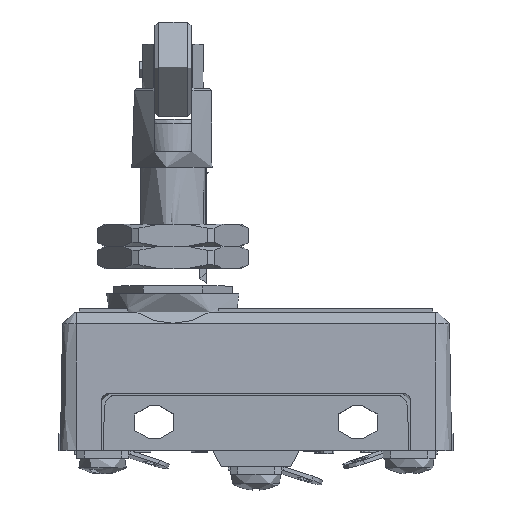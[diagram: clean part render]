
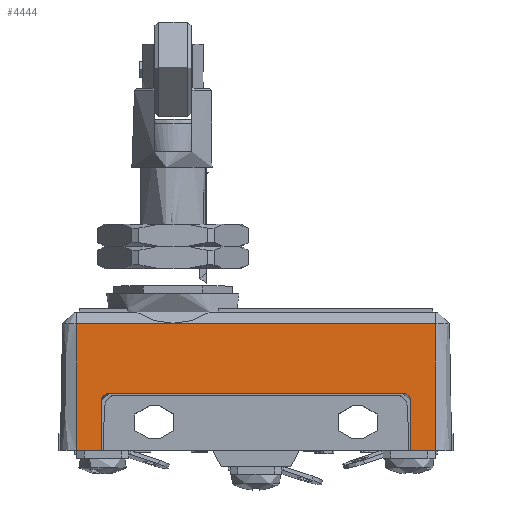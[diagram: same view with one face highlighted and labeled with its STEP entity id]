
A CAD part, top view. The second image highlights one B-rep face of the part: STEP entity #4444.
In plain terms, the highlighted planar face has unit normal (0, 0.018, 1).
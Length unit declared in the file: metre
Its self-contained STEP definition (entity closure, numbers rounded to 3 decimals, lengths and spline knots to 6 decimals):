
#2658=CARTESIAN_POINT('',(0.015183,-0.001307,0.057941));
#2659=VERTEX_POINT('',#2658);
#2662=CARTESIAN_POINT('',(0.014183,-0.001307,0.057941));
#2663=DIRECTION('',(0.,0.017,1.));
#2664=DIRECTION('',(1.,0.,0.));
#2665=AXIS2_PLACEMENT_3D('',#2662,#2663,#2664);
#2666=ELLIPSE('',#2665,0.001,0.001);
#2667=CARTESIAN_POINT('',(0.014183,-0.000307,0.057923));
#2668=VERTEX_POINT('',#2667);
#2669=EDGE_CURVE('',#2659,#2668,#2666,.T.);
#2709=CARTESIAN_POINT('',(0.014183,-0.000307,0.057923));
#2710=DIRECTION('',(-1.,0.,0.));
#2711=VECTOR('',#2710,1.);
#2712=LINE('',#2709,#2711);
#2713=CARTESIAN_POINT('',(-0.022917,-0.000307,0.057923));
#2714=VERTEX_POINT('',#2713);
#2715=EDGE_CURVE('',#2668,#2714,#2712,.T.);
#2751=CARTESIAN_POINT('',(-0.022917,-0.001307,0.057941));
#2752=DIRECTION('',(0.,0.017,1.));
#2753=DIRECTION('',(1.,0.,0.));
#2754=AXIS2_PLACEMENT_3D('',#2751,#2752,#2753);
#2755=ELLIPSE('',#2754,0.001,0.001);
#2756=CARTESIAN_POINT('',(-0.023917,-0.001307,0.057941));
#2757=VERTEX_POINT('',#2756);
#2758=EDGE_CURVE('',#2714,#2757,#2755,.T.);
#2798=CARTESIAN_POINT('',(-0.023917,-0.007405,0.058047));
#2799=DIRECTION('',(0.,-1.,0.017));
#2800=VECTOR('',#2799,1.);
#2801=LINE('',#2798,#2800);
#2802=CARTESIAN_POINT('',(-0.023917,-0.007558,0.05805));
#2803=VERTEX_POINT('',#2802);
#2804=EDGE_CURVE('',#2757,#2803,#2801,.T.);
#3376=CARTESIAN_POINT('',(-0.027117,0.008442,0.057771));
#3377=VERTEX_POINT('',#3376);
#3959=CARTESIAN_POINT('',(-0.027117,-0.007558,0.05805));
#3960=DIRECTION('',(-1.,0.,0.));
#3961=VECTOR('',#3960,1.);
#3962=LINE('',#3959,#3961);
#3963=CARTESIAN_POINT('',(-0.027117,-0.007558,0.05805));
#3964=VERTEX_POINT('',#3963);
#3965=EDGE_CURVE('',#2803,#3964,#3962,.T.);
#4002=CARTESIAN_POINT('',(-0.027117,-0.007558,0.05805));
#4003=DIRECTION('',(0.,-1.,0.017));
#4004=VECTOR('',#4003,1.);
#4005=LINE('',#4002,#4004);
#4006=EDGE_CURVE('',#3377,#3964,#4005,.T.);
#4033=CARTESIAN_POINT('',(0.018383,0.008442,0.057771));
#4034=VERTEX_POINT('',#4033);
#4391=CARTESIAN_POINT('',(0.018383,-0.007558,0.05805));
#4392=VERTEX_POINT('',#4391);
#4397=CARTESIAN_POINT('',(0.018383,-0.007558,0.05805));
#4398=DIRECTION('',(0.,-1.,0.017));
#4399=VECTOR('',#4398,1.);
#4400=LINE('',#4397,#4399);
#4401=EDGE_CURVE('',#4034,#4392,#4400,.T.);
#4414=CARTESIAN_POINT('',(-0.027117,-0.007558,0.05805));
#4415=DIRECTION('',(0.,0.017,1.));
#4416=DIRECTION('',(0.,-1.,0.017));
#4417=AXIS2_PLACEMENT_3D('',#4414,#4415,#4416);
#4418=PLANE('',#4417);
#4419=CARTESIAN_POINT('',(0.015183,-0.007405,0.058047));
#4420=DIRECTION('',(0.,1.,-0.017));
#4421=VECTOR('',#4420,1.);
#4422=LINE('',#4419,#4421);
#4423=CARTESIAN_POINT('',(0.015183,-0.007558,0.05805));
#4424=VERTEX_POINT('',#4423);
#4425=EDGE_CURVE('',#4424,#2659,#4422,.T.);
#4426=ORIENTED_EDGE('',*,*,#4425,.F.);
#4427=EDGE_CURVE('',#4392,#4424,#3962,.T.);
#4428=ORIENTED_EDGE('',*,*,#4427,.F.);
#4429=ORIENTED_EDGE('',*,*,#4401,.F.);
#4430=CARTESIAN_POINT('',(0.018383,0.008442,0.057771));
#4431=DIRECTION('',(-1.,0.,0.));
#4432=VECTOR('',#4431,1.);
#4433=LINE('',#4430,#4432);
#4434=EDGE_CURVE('',#4034,#3377,#4433,.T.);
#4435=ORIENTED_EDGE('',*,*,#4434,.T.);
#4436=ORIENTED_EDGE('',*,*,#4006,.T.);
#4437=ORIENTED_EDGE('',*,*,#3965,.F.);
#4438=ORIENTED_EDGE('',*,*,#2804,.F.);
#4439=ORIENTED_EDGE('',*,*,#2758,.F.);
#4440=ORIENTED_EDGE('',*,*,#2715,.F.);
#4441=ORIENTED_EDGE('',*,*,#2669,.F.);
#4442=EDGE_LOOP('',(#4426,#4428,#4429,#4435,#4436,#4437,#4438,#4439,#4440,#4441));
#4443=FACE_BOUND('',#4442,.T.);
#4444=ADVANCED_FACE('',(#4443),#4418,.T.);
